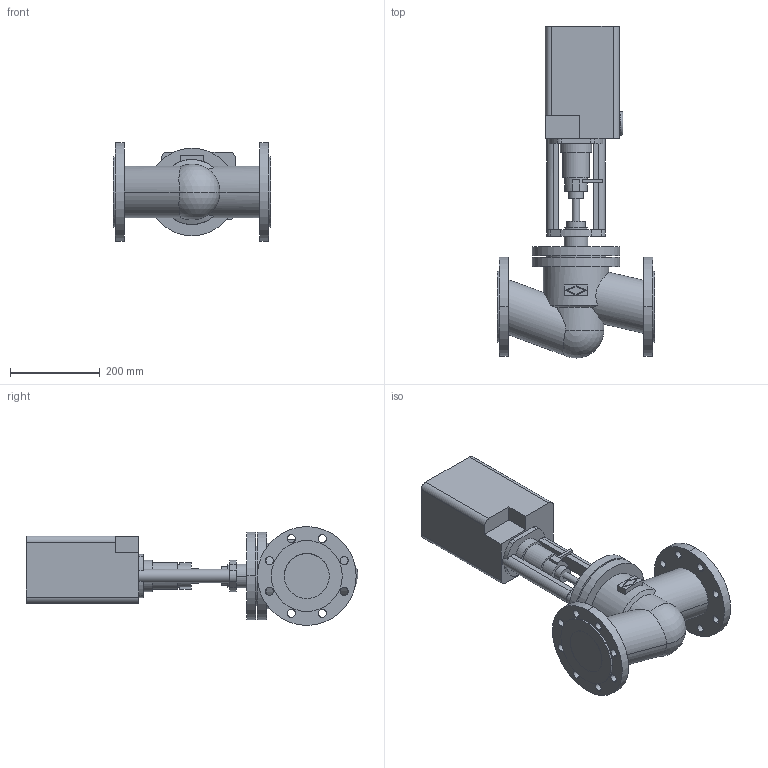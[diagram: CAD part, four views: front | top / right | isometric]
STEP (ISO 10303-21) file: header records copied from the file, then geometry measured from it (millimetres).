
FILE_DESCRIPTION(('OneSpaceDesigner STEP Export'),'2;1');
FILE_NAME('c000000354.stp','2005-02-16T11:36:34',(''),(''),'OneSpace Designer STEP processor (Jan. 2003) for AP203(Solid Model)','OneSpace Designer 12.01D 09-Jul-2004 (C) CoCreate Software GmbH','');
FILE_SCHEMA(('CONFIG_CONTROL_DESIGN'));
Length unit declared in the file: millimetre
Products named in the file (2): 1; 2
Bounding box: 350 x 738.97 x 220 mm (x, y, z)
Volume: 14405422.5 mm3; surface area: 705923.6 mm2
Topology: 2 solids, 2 shells, 178 faces, 453 edges, 300 vertices
Faces by surface type: cylinder 94, plane 78, cone 2, sphere 2, torus 2
Entity records: 5358 total; most frequent: CARTESIAN_POINT 1116, ORIENTED_EDGE 902, DIRECTION 762, EDGE_CURVE 451, VERTEX_POINT 300, AXIS2_PLACEMENT_3D 267, EDGE_LOOP 233, VECTOR 228
